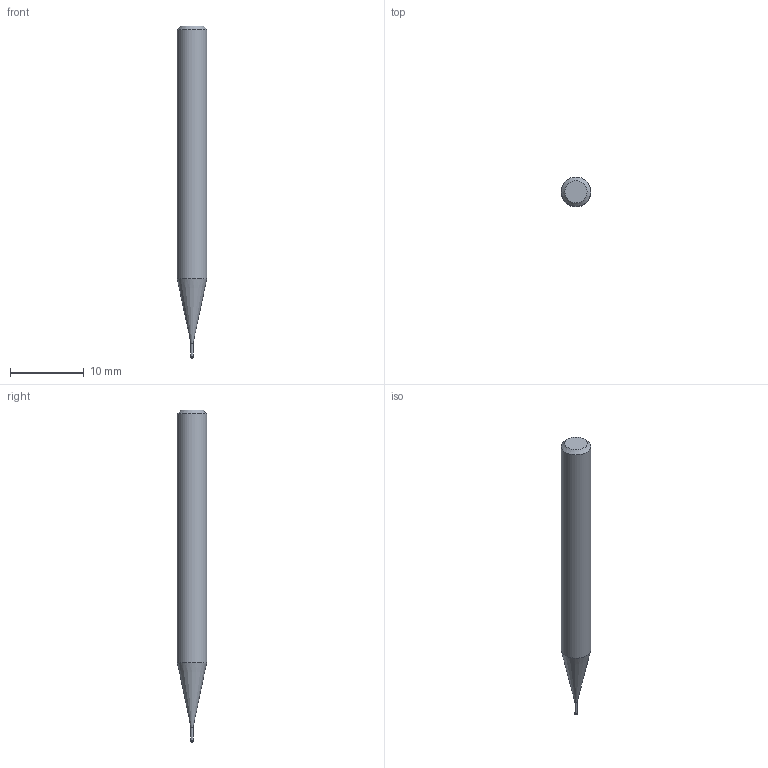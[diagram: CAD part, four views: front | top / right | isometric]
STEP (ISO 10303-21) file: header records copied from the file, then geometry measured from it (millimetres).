
FILE_DESCRIPTION((''),'2;1');
FILE_NAME('C:\Users\nsx150\AppData\Local\Temp\Mastercam 2021\3SYKECWX22\TEMP.step','2021-04-22T09:36:17',(''),(''),'STEP Write','Mastercam 2021 ... CNC Software, Inc.','');
FILE_SCHEMA(('AUTOMOTIVE_DESIGN'));
Length unit declared in the file: millimetre
Products named in the file (1): None
Bounding box: 4 x 4 x 45 mm (x, y, z)
Volume: 468.5 mm3; surface area: 501.1 mm2
Topology: 2 solids, 2 shells, 10 faces, 14 edges, 8 vertices
Faces by surface type: plane 4, cylinder 3, cone 2, torus 1
Full cylindrical faces by diameter (mm): 0.28 x1, 0.3 x1, 4 x1
Entity records: 232 total; most frequent: DIRECTION 40, CARTESIAN_POINT 28, AXIS2_PLACEMENT_3D 20, ORIENTED_EDGE 16, EDGE_LOOP 16, STYLED_ITEM 13, ADVANCED_FACE 10, FACE_BOUND 10
